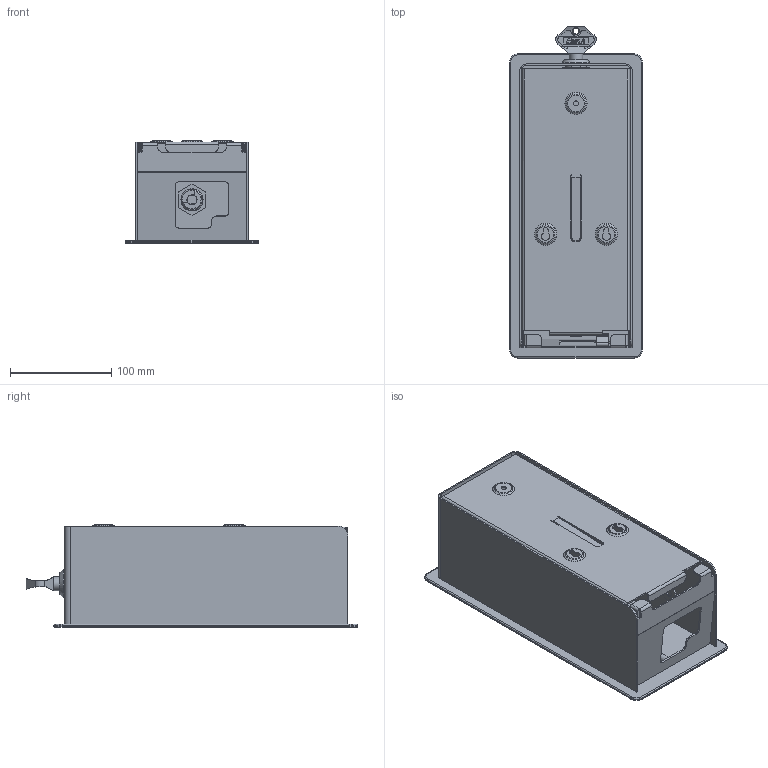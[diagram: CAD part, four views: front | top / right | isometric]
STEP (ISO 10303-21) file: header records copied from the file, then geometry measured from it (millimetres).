
FILE_DESCRIPTION(/* description */ (''),/* implementation_level */ '2;1');
FILE_NAME(/* name */ 'X:\Standardvarer\4010 DAN DRYER LOKI automatic dispenser\Tegninger\Public 3D files\401x DAN DRYER LOKI automatic dispenser.stp',/* time_stamp */ '2020-09-28T14:57:20+02:00',/* author */ ('Dan Dryer'),/* organization */ (''),/* preprocessor_version */ 'ST-DEVELOPER v16.1',/* originating_system */ 'Autodesk Inventor 2016',/* authorisation */ '');
FILE_SCHEMA (('AUTOMOTIVE_DESIGN { 1 0 10303 214 3 1 1 }'));
Length unit declared in the file: millimetre
Products named in the file (19): 67110-10; 67110-12; 67110-11; 67110; 67100-10; 67100-11; 67100-12; 67100-13; 67100-14; M6; Viking logo i streg 24x9 - tykke streger til brug i Inventor; 67100; 28200-1; 28202; 67120; 28207; 28200-2; 28200; 4010 DAN DRYER LOKI automatic dispenser
Assembly tree (21 placements, depth 3):
  4010 DAN DRYER LOKI automatic dispenser
    67110
      67110-10
      67110-12
      67110-11  x2
    67100
      67100-10
      67100-11
      67100-12
      67100-13  x2
      67100-14
      M6  x2
      Viking logo i streg 24x9 - tykke streger til brug i Inventor
    28200
      28200-2
      28200-1
    28202
    67120
    28207
Bounding box: 131 x 327.5 x 101.6 mm (x, y, z)
Volume: 300001.6 mm3; surface area: 327974.8 mm2
Topology: 28 solids, 29 shells, 874 faces, 2213 edges, 1419 vertices
Faces by surface type: plane 585, cylinder 239, torus 21, cone 21, bspline 8
Full cylindrical faces by diameter (mm): 3 x2, 4.917 x2, 5 x3, 5.1 x1, 6 x4, 7 x1, 10 x1, 10.3 x1, 13.5 x1, 15 x1, 16.1 x1, 19.8 x1, 20 x1, 22 x1, 28 x1
Entity records: 27504 total; most frequent: CARTESIAN_POINT 6452, DIRECTION 4239, ORIENTED_EDGE 4169, EDGE_CURVE 2086, LINE 1521, VECTOR 1521, VERTEX_POINT 1365, AXIS2_PLACEMENT_3D 1359
